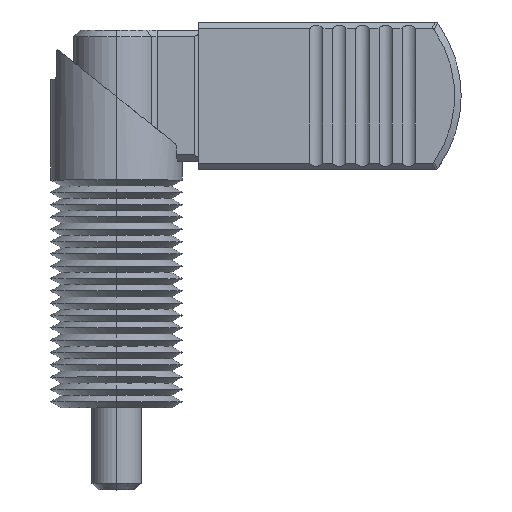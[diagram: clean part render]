
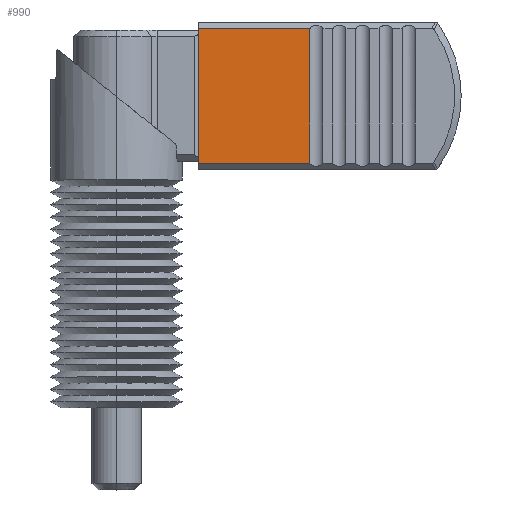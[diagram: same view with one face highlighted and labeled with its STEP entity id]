
A CAD part, top view. The second image highlights one B-rep face of the part: STEP entity #990.
In plain terms, the highlighted planar face has unit normal (0, 0, 1) as drawn and (-1, 0, 0) by its records, which use the part's own axes.
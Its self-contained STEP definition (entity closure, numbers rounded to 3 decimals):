
#275 = VERTEX_POINT ( 'NONE', #1748 ) ;
#970 = EDGE_LOOP ( 'NONE', ( #1028, #1029, #1013, #1014 ) ) ;
#990 = ADVANCED_FACE ( 'NONE', ( #3046 ), #3045, .T. ) ;
#1012 = EDGE_CURVE ( 'NONE', #1032, #5578, #3115, .T. ) ;
#1013 = ORIENTED_EDGE ( 'NONE', *, *, #5590, .F. ) ;
#1014 = ORIENTED_EDGE ( 'NONE', *, *, #1015, .T. ) ;
#1015 = EDGE_CURVE ( 'NONE', #275, #1030, #3111, .T. ) ;
#1028 = ORIENTED_EDGE ( 'NONE', *, *, #1034, .T. ) ;
#1029 = ORIENTED_EDGE ( 'NONE', *, *, #1012, .T. ) ;
#1030 = VERTEX_POINT ( 'NONE', #3090 ) ;
#1032 = VERTEX_POINT ( 'NONE', #3149 ) ;
#1034 = EDGE_CURVE ( 'NONE', #1030, #1032, #3142, .T. ) ;
#1748 = CARTESIAN_POINT ( 'NONE',  ( -3.6, -8.199, 0. ) ) ;
#2779 = VECTOR ( 'NONE', #3699, 1000. ) ;
#3041 = DIRECTION ( 'NONE',  ( 0., 0., 1. ) ) ;
#3042 = DIRECTION ( 'NONE',  ( -1., 0., 0. ) ) ;
#3043 = CARTESIAN_POINT ( 'NONE',  ( -3.6, 0., 16.995 ) ) ;
#3044 = AXIS2_PLACEMENT_3D ( 'NONE', #3043, #3042, #3041 ) ;
#3045 = PLANE ( 'NONE',  #3044 ) ;
#3046 = FACE_OUTER_BOUND ( 'NONE', #970, .T. ) ;
#3090 = CARTESIAN_POINT ( 'NONE',  ( -3.6, -8.199, 13.537 ) ) ;
#3108 = DIRECTION ( 'NONE',  ( 0., 0., 1. ) ) ;
#3109 = VECTOR ( 'NONE', #3108, 1000. ) ;
#3110 = CARTESIAN_POINT ( 'NONE',  ( -3.6, -8.199, 29.001 ) ) ;
#3111 = LINE ( 'NONE', #3110, #3109 ) ;
#3112 = DIRECTION ( 'NONE',  ( 0., 0., -1. ) ) ;
#3113 = VECTOR ( 'NONE', #3112, 1000. ) ;
#3114 = CARTESIAN_POINT ( 'NONE',  ( -3.6, 8.199, 0. ) ) ;
#3115 = LINE ( 'NONE', #3114, #3113 ) ;
#3139 = DIRECTION ( 'NONE',  ( 0., 1., 0. ) ) ;
#3140 = VECTOR ( 'NONE', #3139, 1000. ) ;
#3141 = CARTESIAN_POINT ( 'NONE',  ( -3.6, -9., 13.537 ) ) ;
#3142 = LINE ( 'NONE', #3141, #3140 ) ;
#3149 = CARTESIAN_POINT ( 'NONE',  ( -3.6, 8.199, 13.537 ) ) ;
#3699 = DIRECTION ( 'NONE',  ( 0., 1., 0. ) ) ;
#3700 = CARTESIAN_POINT ( 'NONE',  ( -3.6, -9., 0. ) ) ;
#3701 = LINE ( 'NONE', #3700, #2779 ) ;
#3719 = CARTESIAN_POINT ( 'NONE',  ( -3.6, 8.199, 0. ) ) ;
#5578 = VERTEX_POINT ( 'NONE', #3719 ) ;
#5590 = EDGE_CURVE ( 'NONE', #275, #5578, #3701, .T. ) ;
